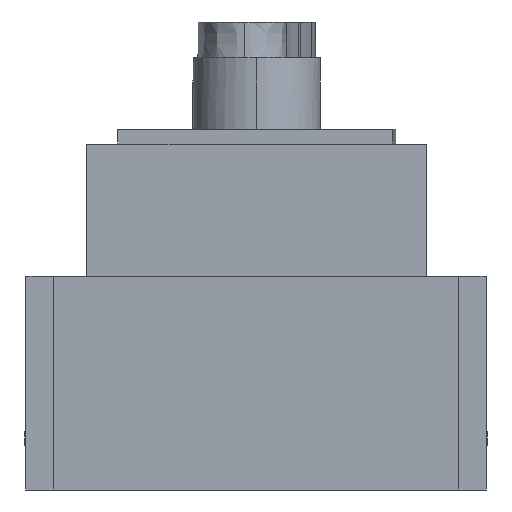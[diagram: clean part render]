
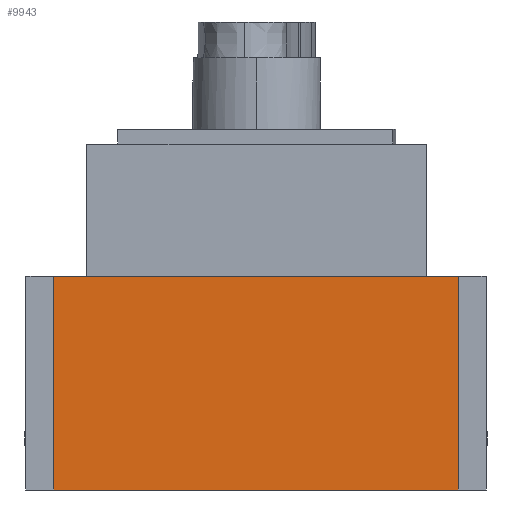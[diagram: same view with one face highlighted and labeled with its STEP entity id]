
A CAD part, left-side view. The second image highlights one B-rep face of the part: STEP entity #9943.
In plain terms, the highlighted planar face has unit normal (-1, 0, 0).
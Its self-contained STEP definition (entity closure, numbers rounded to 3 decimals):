
#2=DIRECTION('',(0.,-1.,0.));
#3=VECTOR('',#2,180.71);
#4=CARTESIAN_POINT('',(0.,193.215,95.5));
#5=LINE('',#4,#3);
#6=DIRECTION('',(0.,0.,-1.));
#7=VECTOR('',#6,95.5);
#8=CARTESIAN_POINT('',(0.,12.505,95.5));
#9=LINE('',#8,#7);
#10=DIRECTION('',(0.,1.,0.));
#11=VECTOR('',#10,180.71);
#12=CARTESIAN_POINT('',(0.,12.505,0.));
#13=LINE('',#12,#11);
#22=DIRECTION('',(0.,0.,-1.));
#23=VECTOR('',#22,95.5);
#24=CARTESIAN_POINT('',(0.,193.215,95.5));
#25=LINE('',#24,#23);
#7560=CARTESIAN_POINT('',(0.,193.215,95.5));
#7561=CARTESIAN_POINT('',(0.,193.215,0.));
#7562=VERTEX_POINT('',#7560);
#7563=VERTEX_POINT('',#7561);
#7564=CARTESIAN_POINT('',(0.,12.505,95.5));
#7565=VERTEX_POINT('',#7564);
#7566=CARTESIAN_POINT('',(0.,12.505,0.));
#7567=VERTEX_POINT('',#7566);
#9928=CARTESIAN_POINT('',(0.,0.,0.));
#9929=DIRECTION('',(-1.,0.,0.));
#9930=DIRECTION('',(0.,0.,1.));
#9931=AXIS2_PLACEMENT_3D('',#9928,#9929,#9930);
#9932=PLANE('',#9931);
#9934=ORIENTED_EDGE('',*,*,#9933,.F.);
#9936=ORIENTED_EDGE('',*,*,#9935,.T.);
#9938=ORIENTED_EDGE('',*,*,#9937,.T.);
#9940=ORIENTED_EDGE('',*,*,#9939,.T.);
#9941=EDGE_LOOP('',(#9934,#9936,#9938,#9940));
#9942=FACE_OUTER_BOUND('',#9941,.F.);
#9933=EDGE_CURVE('',#7562,#7563,#25,.T.);
#9935=EDGE_CURVE('',#7562,#7565,#5,.T.);
#9937=EDGE_CURVE('',#7565,#7567,#9,.T.);
#9939=EDGE_CURVE('',#7567,#7563,#13,.T.);
#9943=ADVANCED_FACE('',(#9942),#9932,.T.);
